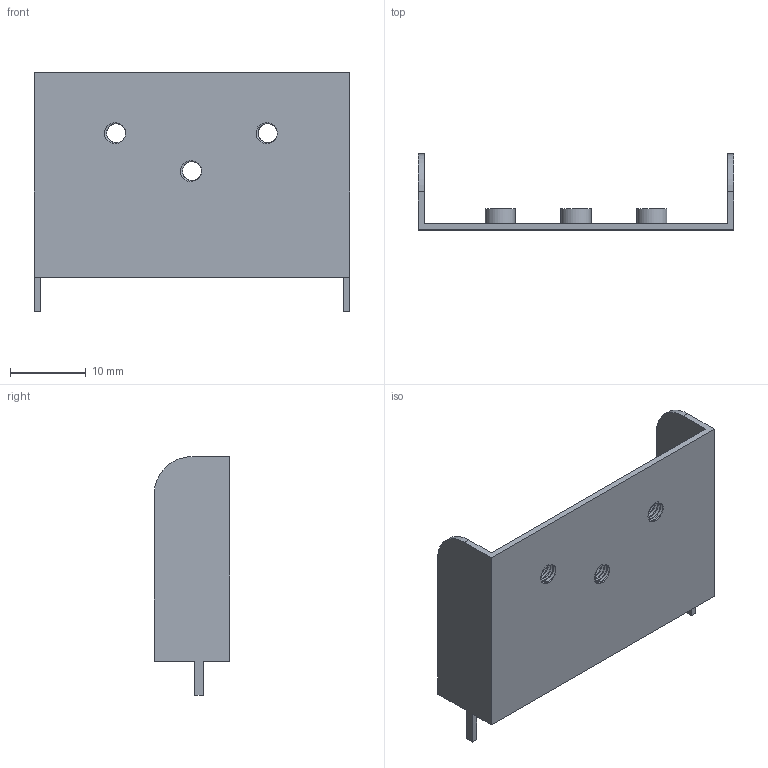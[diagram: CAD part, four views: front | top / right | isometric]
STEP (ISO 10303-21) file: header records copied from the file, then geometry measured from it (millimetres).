
FILE_DESCRIPTION(/* description */ ('','CAx-IF Rec.Pracs.---Representation and Presentation of Product Manufacturing Information (PMI)---4.0---2014-10-13'),/* implementation_level */ '2;1');
FILE_NAME(/* name */ 'TypeB-1-0.8.step',/* time_stamp */ '2025-01-27T02:26:07+09:00',/* author */ (''),/* organization */ (''),/* preprocessor_version */ 'ST-DEVELOPER v20',/* originating_system */ 'Autodesk Translation Framework v13.20.0.188',/* authorisation */ '');
FILE_SCHEMA (('AP242_MANAGED_MODEL_BASED_3D_ENGINEERING_MIM_LF { 1 0 10303 442 1 1 4 }'));
Length unit declared in the file: millimetre
Products named in the file (1): (未保存)
Bounding box: 41.6 x 10 x 31.5 mm (x, y, z)
Volume: 1320.8 mm3; surface area: 3549.3 mm2
Topology: 1 solids, 1 shells, 77 faces, 216 edges, 144 vertices
Faces by surface type: cylinder 44, plane 21, bspline 12
Full cylindrical faces by diameter (mm): 2.529 x12, 3.086 x15, 4 x3
Entity records: 5911 total; most frequent: CARTESIAN_POINT 4104, ORIENTED_EDGE 432, DIRECTION 262, EDGE_CURVE 216, VERTEX_POINT 144, B_SPLINE_CURVE_WITH_KNOTS 108, AXIS2_PLACEMENT_3D 88, EDGE_LOOP 86
